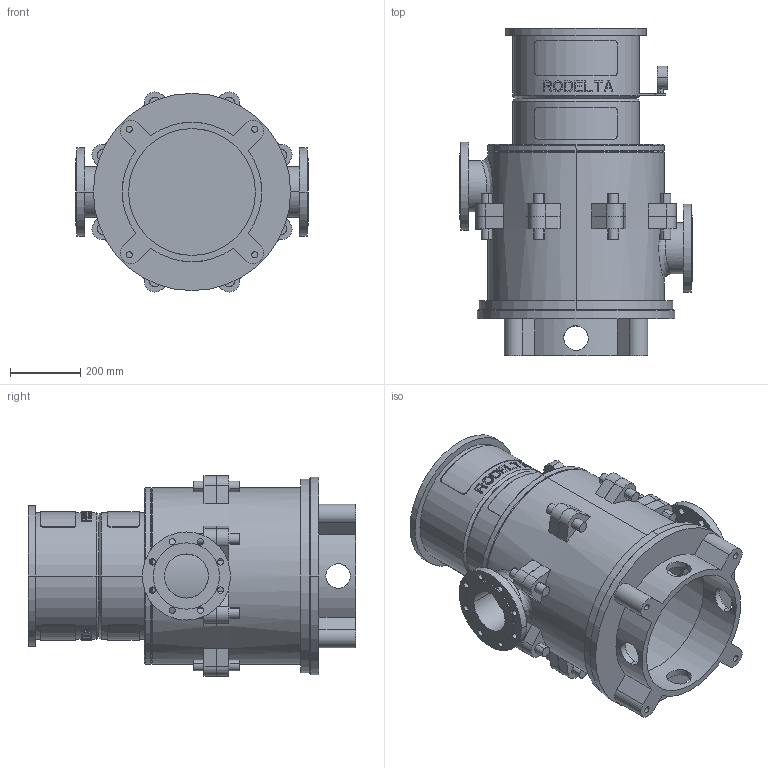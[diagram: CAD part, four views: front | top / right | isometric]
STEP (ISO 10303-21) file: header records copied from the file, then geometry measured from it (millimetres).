
FILE_DESCRIPTION((''),'2;1');
FILE_NAME('LS5_1TR_0GR_TOT_30KW','2023-08-08T',('Lyritlocal'),(''),'PRO/ENGINEER BY PARAMETRIC TECHNOLOGY CORPORATION, 2016360','PRO/ENGINEER BY PARAMETRIC TECHNOLOGY CORPORATION, 2016360','');
FILE_SCHEMA(('CONFIG_CONTROL_DESIGN'));
Length unit declared in the file: millimetre
Products named in the file (1): LS5_1TR_0GR_TOT_30KW
Bounding box: 660 x 930 x 568.08 mm (x, y, z)
Volume: 29690155.9 mm3; surface area: 3959002 mm2
Topology: 3 solids, 7 shells, 672 faces, 1747 edges, 1158 vertices
Faces by surface type: plane 414, cylinder 242, cone 12, bspline 4
Entity records: 22090 total; most frequent: CARTESIAN_POINT 5646, ORIENTED_EDGE 3478, DIRECTION 3269, EDGE_CURVE 1747, AXIS2_PLACEMENT_3D 1241, VERTEX_POINT 1158, EDGE_LOOP 809, VECTOR 787
